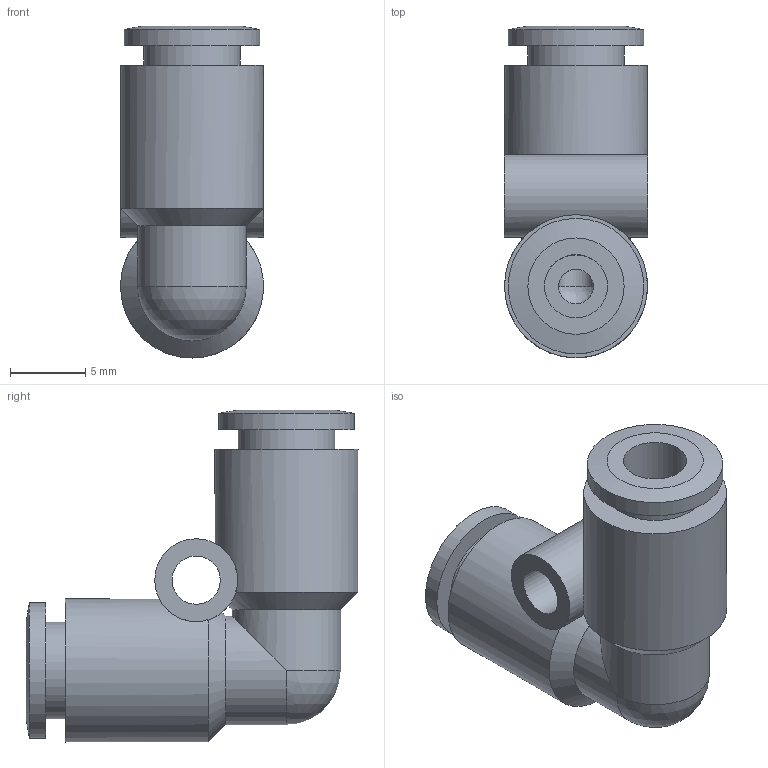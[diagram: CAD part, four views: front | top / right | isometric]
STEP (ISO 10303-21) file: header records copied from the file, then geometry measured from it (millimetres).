
FILE_DESCRIPTION((''),'2;1');
FILE_NAME('C:\Documents and Settings\rivolro1\Documenti\copia di Raccordi\PLASTICA\T04XX00\T040400.stp','2007-10-30T15:36:25',('Rivolro1'),(''),'Autodesk Inventor 2008','Autodesk Inventor 2008','');
FILE_SCHEMA(('AUTOMOTIVE_DESIGN { 1 0 10303 214 1 1 1 1 }'));
Length unit declared in the file: millimetre
Products named in the file (1): T040400
Bounding box: 9.5 x 22.05 x 22.05 mm (x, y, z)
Volume: 1703.9 mm3; surface area: 1814.2 mm2
Topology: 1 solids, 1 shells, 32 faces, 64 edges, 38 vertices
Faces by surface type: cylinder 12, plane 10, bspline 5, cone 4, sphere 1
Full cylindrical faces by diameter (mm): 2.3 x2, 3.2 x1, 5.5 x1, 6.4 x2, 7.2 x2, 9 x2, 9.5 x2
Entity records: 941 total; most frequent: CARTESIAN_POINT 303, DIRECTION 130, ORIENTED_EDGE 84, AXIS2_PLACEMENT_3D 64, EDGE_LOOP 62, EDGE_CURVE 42, VERTEX_POINT 36, CIRCLE 34
